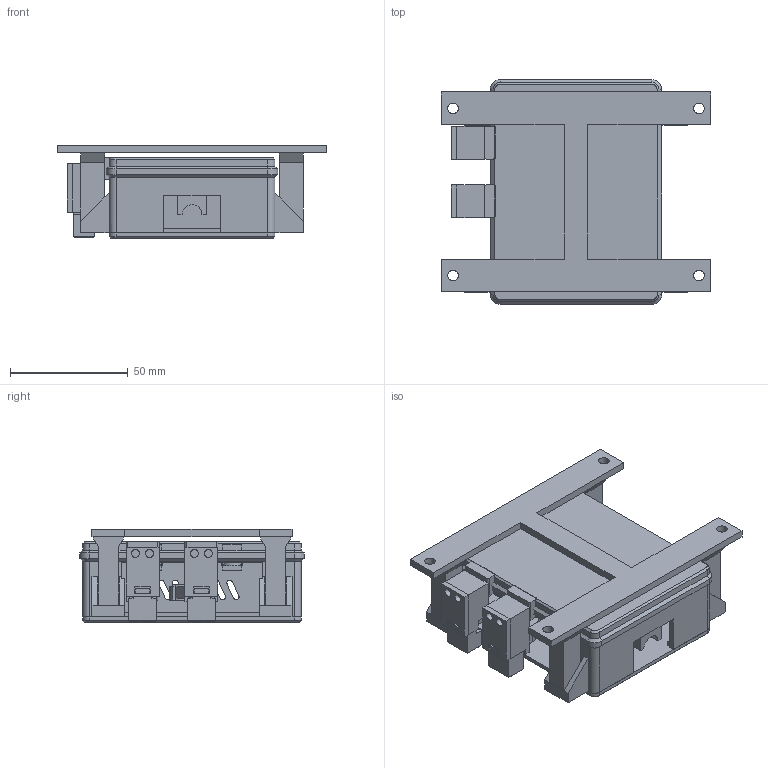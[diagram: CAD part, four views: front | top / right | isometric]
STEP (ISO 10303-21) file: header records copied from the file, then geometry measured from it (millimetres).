
FILE_DESCRIPTION(('SolidCraft model'),'2;1');
FILE_NAME('wall-high-native.step','',(''),(''),'SolidCraft','SolidCraft','');
FILE_SCHEMA(('AP242_MANAGED_MODEL_BASED_3D_ENGINEERING_MIM_LF { 1 0 10303 442 1 1 4 }'));
Length unit declared in the file: millimetre
Products named in the file (1): wall-high-native
Bounding box: 114.5 x 95.4 x 39.6 mm (x, y, z)
Volume: 96778.2 mm3; surface area: 79093.8 mm2
Topology: 26 solids, 26 shells, 690 faces, 1831 edges, 1234 vertices
Faces by surface type: plane 546, cylinder 124, cone 16, bspline 4
Full cylindrical faces by diameter (mm): 3.4 x22, 4 x19, 4.5 x4
Entity records: 17552 total; most frequent: CARTESIAN_POINT 3817, ORIENTED_EDGE 3662, EDGE_CURVE 1831, LINE 1433, VERTEX_POINT 1234, DIRECTION 939, VECTOR 871, EDGE_LOOP 829
